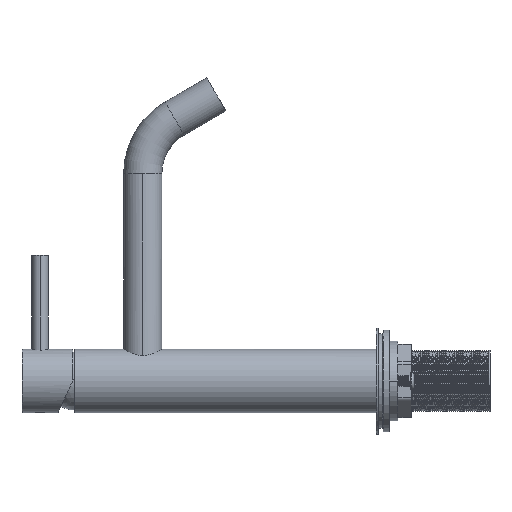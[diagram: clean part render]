
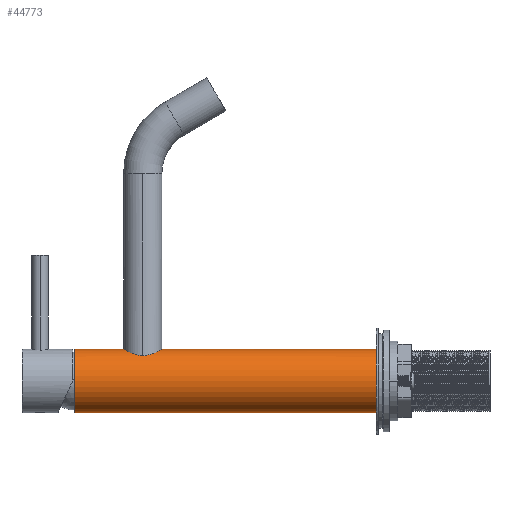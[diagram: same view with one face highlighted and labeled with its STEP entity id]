
A CAD part, left-side view. The second image highlights one B-rep face of the part: STEP entity #44773.
In plain terms, the highlighted cylindrical face has radius 15 mm (diameter 30 mm), a partial arc.
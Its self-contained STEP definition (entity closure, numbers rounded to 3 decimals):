
#347 = CARTESIAN_POINT ( 'NONE',  ( -0.303, 101., 15. ) ) ;
#429 = CARTESIAN_POINT ( 'NONE',  ( -5.952, 116.757, 13.77 ) ) ;
#568 = EDGE_CURVE ( 'NONE', #9918, #35024, #32351, .T. ) ;
#569 = CARTESIAN_POINT ( 'NONE',  ( -6.581, 103.854, 13.481 ) ) ;
#1003 = ORIENTED_EDGE ( 'NONE', *, *, #6806, .T. ) ;
#1769 = AXIS2_PLACEMENT_3D ( 'NONE', #31642, #10965, #27775 ) ;
#1857 = EDGE_CURVE ( 'NONE', #24716, #5276, #35349, .T. ) ;
#2883 = EDGE_CURVE ( 'NONE', #7009, #9687, #12952, .T. ) ;
#3121 = EDGE_CURVE ( 'NONE', #35024, #5276, #10424, .T. ) ;
#3178 = CARTESIAN_POINT ( 'NONE',  ( -7.624, 114.791, 12.919 ) ) ;
#3337 = DIRECTION ( 'NONE',  ( 0., -1., 0. ) ) ;
#3768 = CARTESIAN_POINT ( 'NONE',  ( 0., 101., 15. ) ) ;
#3985 = CARTESIAN_POINT ( 'NONE',  ( -0.61, 101.016, 14.991 ) ) ;
#4002 = VECTOR ( 'NONE', #41359, 1000. ) ;
#4206 = CARTESIAN_POINT ( 'NONE',  ( -7.311, 104.744, 13.099 ) ) ;
#4661 = CARTESIAN_POINT ( 'NONE',  ( -4.565, 102.222, 14.298 ) ) ;
#5276 = VERTEX_POINT ( 'NONE', #11077 ) ;
#6054 = CARTESIAN_POINT ( 'NONE',  ( 0., 142., -15. ) ) ;
#6364 = CARTESIAN_POINT ( 'NONE',  ( -9., 110.611, 12. ) ) ;
#6368 = CARTESIAN_POINT ( 'NONE',  ( 0., 0., 15. ) ) ;
#6806 = EDGE_CURVE ( 'NONE', #34464, #7009, #37177, .T. ) ;
#7009 = VERTEX_POINT ( 'NONE', #22975 ) ;
#7042 = CARTESIAN_POINT ( 'NONE',  ( -8.684, 112.381, 12.231 ) ) ;
#7264 = CARTESIAN_POINT ( 'NONE',  ( 0., 142., 15. ) ) ;
#7268 = CARTESIAN_POINT ( 'NONE',  ( -7.14, 115.51, 13.197 ) ) ;
#7864 = CARTESIAN_POINT ( 'NONE',  ( 0., 142., -15. ) ) ;
#9687 = VERTEX_POINT ( 'NONE', #6368 ) ;
#9918 = VERTEX_POINT ( 'NONE', #31755 ) ;
#10424 = B_SPLINE_CURVE_WITH_KNOTS ( 'NONE', 3,
 ( #34309, #6364, #31132, #13647, #7042, #41128, #24292, #20666, #31563, #20220, #3178, #7268, #17272, #24507, #429, #13872, #17050, #27247, #30902, #14301, #44779, #34974, #27917, #38177, #17494, #34763, #41809, #34083 ),
 .UNSPECIFIED., .F., .F.,
 ( 4, 2, 2, 2, 2, 2, 2, 2, 2, 2, 2, 2, 2, 4 ),
 ( 0.029, 0.031, 0.032, 0.032, 0.033, 0.034, 0.036, 0.037, 0.038, 0.04, 0.041, 0.041, 0.042, 0.043 ),
 .UNSPECIFIED. ) ;
#10590 = CARTESIAN_POINT ( 'NONE',  ( -1.21, 101.077, 14.954 ) ) ;
#10660 = LINE ( 'NONE', #7264, #4002 ) ;
#10806 = CARTESIAN_POINT ( 'NONE',  ( -4.052, 101.942, 14.453 ) ) ;
#10965 = DIRECTION ( 'NONE',  ( 0., -1., 0. ) ) ;
#11077 = CARTESIAN_POINT ( 'NONE',  ( 0., 119., 15. ) ) ;
#11254 = CARTESIAN_POINT ( 'NONE',  ( -9., 109.388, 12. ) ) ;
#11460 = CIRCLE ( 'NONE', #15832, 15. ) ;
#12227 = AXIS2_PLACEMENT_3D ( 'NONE', #39383, #25504, #15071 ) ;
#12800 = CARTESIAN_POINT ( 'NONE',  ( -9., 110., 12. ) ) ;
#12952 = CIRCLE ( 'NONE', #12227, 15. ) ;
#13647 = CARTESIAN_POINT ( 'NONE',  ( -8.759, 112.089, 12.177 ) ) ;
#13872 = CARTESIAN_POINT ( 'NONE',  ( -5.506, 117.125, 13.955 ) ) ;
#14221 = CARTESIAN_POINT ( 'NONE',  ( -3.236, 101.597, 14.649 ) ) ;
#14301 = CARTESIAN_POINT ( 'NONE',  ( -3.229, 118.406, 14.651 ) ) ;
#14443 = CARTESIAN_POINT ( 'NONE',  ( -7.794, 105.462, 12.822 ) ) ;
#14455 = CARTESIAN_POINT ( 'NONE',  ( 0., 142., 15. ) ) ;
#15071 = DIRECTION ( 'NONE',  ( 0., 0., 1. ) ) ;
#15300 = ORIENTED_EDGE ( 'NONE', *, *, #568, .T. ) ;
#15832 = AXIS2_PLACEMENT_3D ( 'NONE', #37138, #40099, #23488 ) ;
#17050 = CARTESIAN_POINT ( 'NONE',  ( -5.274, 117.298, 14.044 ) ) ;
#17272 = CARTESIAN_POINT ( 'NONE',  ( -6.776, 115.951, 13.39 ) ) ;
#17494 = CARTESIAN_POINT ( 'NONE',  ( -1.208, 118.924, 14.954 ) ) ;
#17641 = EDGE_CURVE ( 'NONE', #34464, #24716, #11460, .T. ) ;
#17850 = CARTESIAN_POINT ( 'NONE',  ( -5.965, 103.255, 13.765 ) ) ;
#18075 = CARTESIAN_POINT ( 'NONE',  ( -8.759, 107.91, 12.177 ) ) ;
#18128 = ORIENTED_EDGE ( 'NONE', *, *, #2883, .T. ) ;
#18517 = CARTESIAN_POINT ( 'NONE',  ( -8.938, 108.789, 12.047 ) ) ;
#20220 = CARTESIAN_POINT ( 'NONE',  ( -7.776, 114.541, 12.828 ) ) ;
#20666 = CARTESIAN_POINT ( 'NONE',  ( -8.179, 113.767, 12.575 ) ) ;
#20964 = FACE_OUTER_BOUND ( 'NONE', #41266, .T. ) ;
#22975 = CARTESIAN_POINT ( 'NONE',  ( 0., 0., -15. ) ) ;
#23488 = DIRECTION ( 'NONE',  ( 0., 0., 1. ) ) ;
#24292 = CARTESIAN_POINT ( 'NONE',  ( -8.407, 113.227, 12.424 ) ) ;
#24426 = CARTESIAN_POINT ( 'NONE',  ( -8.508, 107.049, 12.354 ) ) ;
#24507 = CARTESIAN_POINT ( 'NONE',  ( -6.167, 116.561, 13.675 ) ) ;
#24655 = CARTESIAN_POINT ( 'NONE',  ( -6.177, 103.448, 13.671 ) ) ;
#24716 = VERTEX_POINT ( 'NONE', #44975 ) ;
#25317 = CARTESIAN_POINT ( 'NONE',  ( -2.383, 101.316, 14.812 ) ) ;
#25504 = DIRECTION ( 'NONE',  ( 0., 1., 0. ) ) ;
#25588 = VECTOR ( 'NONE', #36016, 1000. ) ;
#27247 = CARTESIAN_POINT ( 'NONE',  ( -4.557, 117.782, 14.3 ) ) ;
#27775 = DIRECTION ( 'NONE',  ( 0., 0., -1. ) ) ;
#27917 = CARTESIAN_POINT ( 'NONE',  ( -2.088, 118.76, 14.857 ) ) ;
#28057 = CARTESIAN_POINT ( 'NONE',  ( -2.093, 101.242, 14.856 ) ) ;
#28221 = CYLINDRICAL_SURFACE ( 'NONE', #1769, 15. ) ;
#28285 = CARTESIAN_POINT ( 'NONE',  ( -8.067, 105.968, 12.649 ) ) ;
#28733 = CARTESIAN_POINT ( 'NONE',  ( -8.407, 106.773, 12.424 ) ) ;
#30472 = ORIENTED_EDGE ( 'NONE', *, *, #17641, .F. ) ;
#30902 = CARTESIAN_POINT ( 'NONE',  ( -4.047, 118.06, 14.455 ) ) ;
#31132 = CARTESIAN_POINT ( 'NONE',  ( -8.938, 111.21, 12.047 ) ) ;
#31563 = CARTESIAN_POINT ( 'NONE',  ( -8.053, 114.029, 12.656 ) ) ;
#31642 = CARTESIAN_POINT ( 'NONE',  ( 0., 142., 0. ) ) ;
#31755 = CARTESIAN_POINT ( 'NONE',  ( 0., 101., 15. ) ) ;
#31931 = CARTESIAN_POINT ( 'NONE',  ( -9., 110., 12. ) ) ;
#32153 = CARTESIAN_POINT ( 'NONE',  ( -5.289, 102.712, 14.039 ) ) ;
#32351 = B_SPLINE_CURVE_WITH_KNOTS ( 'NONE', 3,
 ( #3768, #347, #3985, #10590, #42620, #28057, #25317, #41949, #14221, #10806, #4661, #32153, #35339, #17850, #24655, #569, #34896, #39196, #4206, #14443, #28285, #28733, #24426, #38969, #18075, #18517, #11254, #31931 ),
 .UNSPECIFIED., .F., .F.,
 ( 4, 2, 2, 2, 2, 2, 2, 2, 2, 2, 2, 2, 2, 4 ),
 ( 0.014, 0.015, 0.016, 0.017, 0.018, 0.02, 0.021, 0.022, 0.023, 0.023, 0.025, 0.026, 0.027, 0.029 ),
 .UNSPECIFIED. ) ;
#34083 = CARTESIAN_POINT ( 'NONE',  ( 0., 119., 15. ) ) ;
#34309 = CARTESIAN_POINT ( 'NONE',  ( -9., 110., 12. ) ) ;
#34464 = VERTEX_POINT ( 'NONE', #7864 ) ;
#34662 = ORIENTED_EDGE ( 'NONE', *, *, #43221, .F. ) ;
#34763 = CARTESIAN_POINT ( 'NONE',  ( -0.609, 118.984, 14.991 ) ) ;
#34896 = CARTESIAN_POINT ( 'NONE',  ( -6.773, 104.066, 13.385 ) ) ;
#34974 = CARTESIAN_POINT ( 'NONE',  ( -2.376, 118.686, 14.813 ) ) ;
#35024 = VERTEX_POINT ( 'NONE', #12800 ) ;
#35339 = CARTESIAN_POINT ( 'NONE',  ( -5.522, 102.887, 13.949 ) ) ;
#35349 = LINE ( 'NONE', #14455, #25588 ) ;
#36016 = DIRECTION ( 'NONE',  ( 0., -1., 0. ) ) ;
#37138 = CARTESIAN_POINT ( 'NONE',  ( 0., 142., 0. ) ) ;
#37177 = LINE ( 'NONE', #6054, #37642 ) ;
#37642 = VECTOR ( 'NONE', #3337, 1000. ) ;
#38177 = CARTESIAN_POINT ( 'NONE',  ( -1.503, 118.879, 14.927 ) ) ;
#38969 = CARTESIAN_POINT ( 'NONE',  ( -8.684, 107.618, 12.231 ) ) ;
#39196 = CARTESIAN_POINT ( 'NONE',  ( -7.138, 104.511, 13.194 ) ) ;
#39383 = CARTESIAN_POINT ( 'NONE',  ( 0., 0., 0. ) ) ;
#39692 = ORIENTED_EDGE ( 'NONE', *, *, #1857, .F. ) ;
#40099 = DIRECTION ( 'NONE',  ( 0., 1., 0. ) ) ;
#41128 = CARTESIAN_POINT ( 'NONE',  ( -8.508, 112.95, 12.354 ) ) ;
#41266 = EDGE_LOOP ( 'NONE', ( #39692, #30472, #1003, #18128, #34662, #15300, #43475 ) ) ;
#41359 = DIRECTION ( 'NONE',  ( 0., -1., 0. ) ) ;
#41809 = CARTESIAN_POINT ( 'NONE',  ( -0.305, 119., 15. ) ) ;
#41949 = CARTESIAN_POINT ( 'NONE',  ( -2.955, 101.494, 14.709 ) ) ;
#42620 = CARTESIAN_POINT ( 'NONE',  ( -1.507, 101.122, 14.927 ) ) ;
#43221 = EDGE_CURVE ( 'NONE', #9918, #9687, #10660, .T. ) ;
#43475 = ORIENTED_EDGE ( 'NONE', *, *, #3121, .T. ) ;
#44773 = ADVANCED_FACE ( 'NONE', ( #20964 ), #28221, .T. ) ;
#44779 = CARTESIAN_POINT ( 'NONE',  ( -2.946, 118.509, 14.711 ) ) ;
#44975 = CARTESIAN_POINT ( 'NONE',  ( 0., 142., 15. ) ) ;
